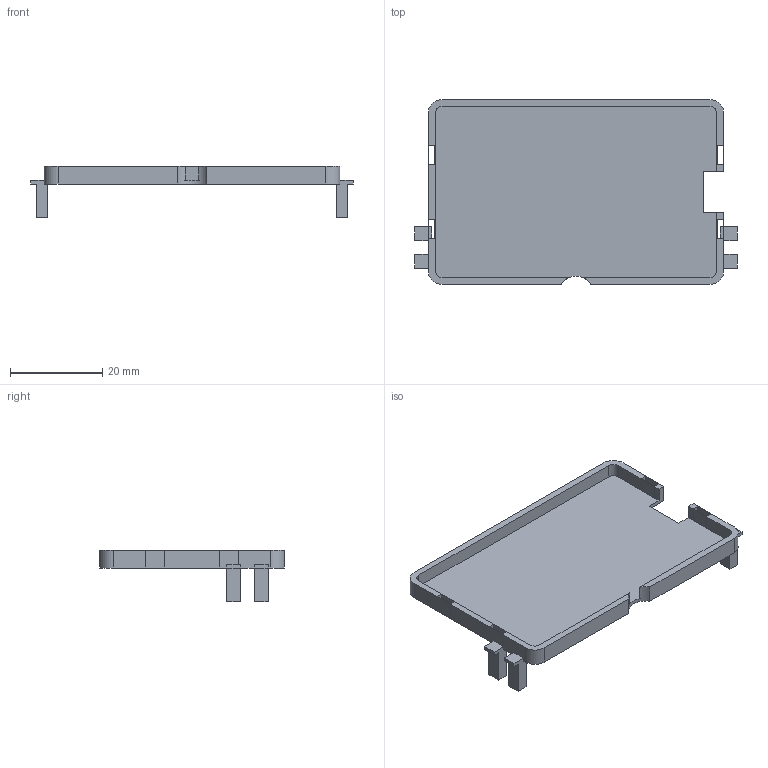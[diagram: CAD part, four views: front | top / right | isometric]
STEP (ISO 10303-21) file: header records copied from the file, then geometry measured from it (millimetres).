
FILE_DESCRIPTION(('Open CASCADE Model'),'2;1');
FILE_NAME('Open CASCADE Shape Model','2026-09-04T14:05:01',('Author'),( 'Open CASCADE'),'Open CASCADE STEP processor 7.7','Open CASCADE 7.7' ,'Unknown');
FILE_SCHEMA(('AUTOMOTIVE_DESIGN { 1 0 10303 214 1 1 1 1 }'));
Length unit declared in the file: millimetre
Products named in the file (1): Open CASCADE STEP translator 7.7 9
Bounding box: 69.8 x 40 x 11.05 mm (x, y, z)
Volume: 2983.2 mm3; surface area: 6834.6 mm2
Topology: 1 solids, 1 shells, 78 faces, 234 edges, 156 vertices
Faces by surface type: plane 69, cylinder 9
Entity records: 5690 total; most frequent: CARTESIAN_POINT 985, DIRECTION 872, LINE 662, VECTOR 662, ORIENTED_EDGE 468, PCURVE 468, DEFINITIONAL_REPRESENTATION 468, EDGE_CURVE 234
